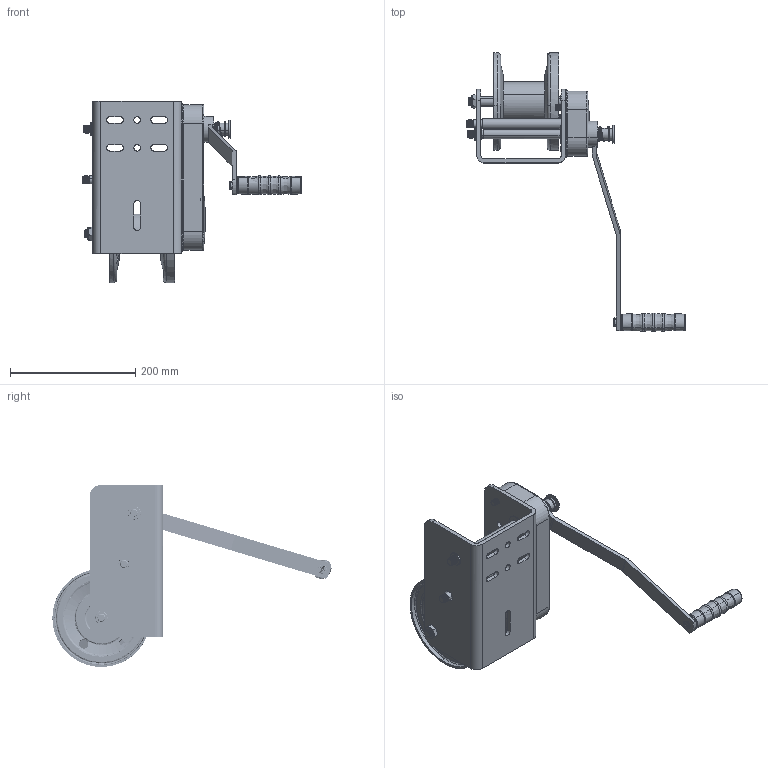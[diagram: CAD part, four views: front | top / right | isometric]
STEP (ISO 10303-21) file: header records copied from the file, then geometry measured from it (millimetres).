
FILE_DESCRIPTION (( 'STEP AP214' ), '1' );
FILE_NAME ('OZWINHND2.STEP', '2023-05-02T16:43:22', ( '' ), ( '' ), 'SwSTEP 2.0', 'SolidWorks 2021', '' );
FILE_SCHEMA (( 'AUTOMOTIVE_DESIGN' ));
Length unit declared in the file: inch
Products named in the file (1): OZWINHND2
Bounding box: 348.79 x 445.4 x 290.15 mm (x, y, z)
Surface area: 517491.3 mm2 (no closed solid volume)
Topology: 0 solids, 41 shells, 2443 faces, 7097 edges, 4590 vertices
Faces by surface type: cylinder 816, torus 678, cone 450, plane 359, bspline 128, sphere 12
Entity records: 206796 total; most frequent: CARTESIAN_POINT 156203, ORIENTED_EDGE 14090, EDGE_CURVE 7097, B_SPLINE_CURVE_WITH_KNOTS 7091, DIRECTION 4644, VERTEX_POINT 4590, EDGE_LOOP 2560, ADVANCED_FACE 2443
